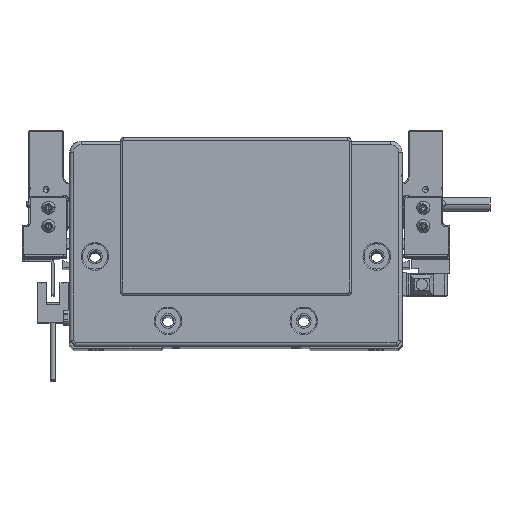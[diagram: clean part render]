
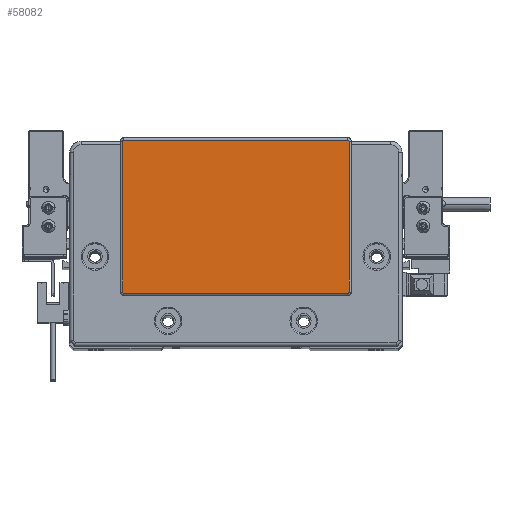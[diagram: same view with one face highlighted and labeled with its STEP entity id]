
A CAD part, top view. The second image highlights one B-rep face of the part: STEP entity #58082.
In plain terms, the highlighted planar face has unit normal (0, 0, 1) as drawn and (0, 0, -1) by its records, which use the part's own axes.
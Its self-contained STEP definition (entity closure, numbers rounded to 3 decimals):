
#1786 = DIRECTION ( 'NONE',  ( 0., 0., -1. ) ) ;
#2602 = CIRCLE ( 'NONE', #23443, 0.5 ) ;
#2901 = EDGE_CURVE ( 'NONE', #74944, #9505, #5703, .T. ) ;
#3744 = CARTESIAN_POINT ( 'NONE',  ( -48.75, 43.8, -2. ) ) ;
#4159 = DIRECTION ( 'NONE',  ( -1., 0., 0. ) ) ;
#5703 = CIRCLE ( 'NONE', #48491, 0.5 ) ;
#6623 = EDGE_CURVE ( 'NONE', #72163, #43338, #20605, .T. ) ;
#7954 = CARTESIAN_POINT ( 'NONE',  ( 49.25, 43.8, -2. ) ) ;
#8274 = CIRCLE ( 'NONE', #10883, 0.5 ) ;
#9505 = VERTEX_POINT ( 'NONE', #7954 ) ;
#10209 = CARTESIAN_POINT ( 'NONE',  ( -48.75, -21.8, -2. ) ) ;
#10883 = AXIS2_PLACEMENT_3D ( 'NONE', #3744, #71454, #4159 ) ;
#13197 = DIRECTION ( 'NONE',  ( 0., 0., -1. ) ) ;
#14124 = AXIS2_PLACEMENT_3D ( 'NONE', #59891, #66446, #16313 ) ;
#14901 = EDGE_CURVE ( 'NONE', #55928, #72163, #2602, .T. ) ;
#16313 = DIRECTION ( 'NONE',  ( -1., 0., 0. ) ) ;
#16682 = CARTESIAN_POINT ( 'NONE',  ( 49.25, -21.8, -2. ) ) ;
#16949 = CARTESIAN_POINT ( 'NONE',  ( -49.25, -21.8, -2. ) ) ;
#17752 = ORIENTED_EDGE ( 'NONE', *, *, #41840, .T. ) ;
#18733 = ORIENTED_EDGE ( 'NONE', *, *, #33676, .T. ) ;
#20374 = CARTESIAN_POINT ( 'NONE',  ( 0., 0., -2. ) ) ;
#20605 = LINE ( 'NONE', #58080, #27383 ) ;
#20808 = CIRCLE ( 'NONE', #14124, 0.5 ) ;
#22364 = LINE ( 'NONE', #36214, #43108 ) ;
#23443 = AXIS2_PLACEMENT_3D ( 'NONE', #10209, #1786, #39319 ) ;
#26907 = DIRECTION ( 'NONE',  ( 0., 0., -1. ) ) ;
#27383 = VECTOR ( 'NONE', #77274, 1000. ) ;
#29030 = EDGE_CURVE ( 'NONE', #9505, #47088, #48921, .T. ) ;
#29345 = DIRECTION ( 'NONE',  ( 0., -1., 0. ) ) ;
#29979 = CARTESIAN_POINT ( 'NONE',  ( -48.75, -22.3, -2. ) ) ;
#31016 = VERTEX_POINT ( 'NONE', #40990 ) ;
#31557 = DIRECTION ( 'NONE',  ( -1., 0., 0. ) ) ;
#31965 = CARTESIAN_POINT ( 'NONE',  ( 48.75, 43.8, -2. ) ) ;
#33172 = CARTESIAN_POINT ( 'NONE',  ( 48.75, 44.3, -2. ) ) ;
#33385 = ORIENTED_EDGE ( 'NONE', *, *, #37571, .T. ) ;
#33676 = EDGE_CURVE ( 'NONE', #31016, #55928, #61364, .T. ) ;
#36214 = CARTESIAN_POINT ( 'NONE',  ( 48.75, 44.3, -2. ) ) ;
#37571 = EDGE_CURVE ( 'NONE', #47088, #31016, #20808, .T. ) ;
#37641 = CARTESIAN_POINT ( 'NONE',  ( -48.75, 44.3, -2. ) ) ;
#39319 = DIRECTION ( 'NONE',  ( -1., 0., 0. ) ) ;
#40990 = CARTESIAN_POINT ( 'NONE',  ( 48.75, -22.3, -2. ) ) ;
#41840 = EDGE_CURVE ( 'NONE', #43338, #70672, #8274, .T. ) ;
#43108 = VECTOR ( 'NONE', #66775, 1000. ) ;
#43195 = ORIENTED_EDGE ( 'NONE', *, *, #29030, .T. ) ;
#43338 = VERTEX_POINT ( 'NONE', #70169 ) ;
#47088 = VERTEX_POINT ( 'NONE', #53339 ) ;
#47399 = ORIENTED_EDGE ( 'NONE', *, *, #6623, .T. ) ;
#48491 = AXIS2_PLACEMENT_3D ( 'NONE', #31965, #13197, #31557 ) ;
#48921 = LINE ( 'NONE', #16682, #77184 ) ;
#51373 = PLANE ( 'NONE',  #61802 ) ;
#52028 = EDGE_LOOP ( 'NONE', ( #43195, #33385, #18733, #72684, #47399, #17752, #56706, #60596 ) ) ;
#53339 = CARTESIAN_POINT ( 'NONE',  ( 49.25, -21.8, -2. ) ) ;
#55265 = CARTESIAN_POINT ( 'NONE',  ( -48.75, -22.3, -2. ) ) ;
#55928 = VERTEX_POINT ( 'NONE', #29979 ) ;
#56706 = ORIENTED_EDGE ( 'NONE', *, *, #78237, .T. ) ;
#58080 = CARTESIAN_POINT ( 'NONE',  ( -49.25, 43.8, -2. ) ) ;
#58082 = ADVANCED_FACE ( 'NONE', ( #76236 ), #51373, .T. ) ;
#59891 = CARTESIAN_POINT ( 'NONE',  ( 48.75, -21.8, -2. ) ) ;
#60596 = ORIENTED_EDGE ( 'NONE', *, *, #2901, .T. ) ;
#61364 = LINE ( 'NONE', #55265, #76305 ) ;
#61802 = AXIS2_PLACEMENT_3D ( 'NONE', #20374, #26907, #63184 ) ;
#63184 = DIRECTION ( 'NONE',  ( -1., 0., 0. ) ) ;
#66446 = DIRECTION ( 'NONE',  ( 0., 0., -1. ) ) ;
#66775 = DIRECTION ( 'NONE',  ( 1., 0., 0. ) ) ;
#70169 = CARTESIAN_POINT ( 'NONE',  ( -49.25, 43.8, -2. ) ) ;
#70672 = VERTEX_POINT ( 'NONE', #37641 ) ;
#71454 = DIRECTION ( 'NONE',  ( 0., 0., -1. ) ) ;
#72163 = VERTEX_POINT ( 'NONE', #16949 ) ;
#72684 = ORIENTED_EDGE ( 'NONE', *, *, #14901, .T. ) ;
#74944 = VERTEX_POINT ( 'NONE', #33172 ) ;
#76236 = FACE_OUTER_BOUND ( 'NONE', #52028, .T. ) ;
#76305 = VECTOR ( 'NONE', #80169, 1000. ) ;
#77184 = VECTOR ( 'NONE', #29345, 1000. ) ;
#77274 = DIRECTION ( 'NONE',  ( 0., 1., 0. ) ) ;
#78237 = EDGE_CURVE ( 'NONE', #70672, #74944, #22364, .T. ) ;
#80169 = DIRECTION ( 'NONE',  ( -1., 0., 0. ) ) ;
